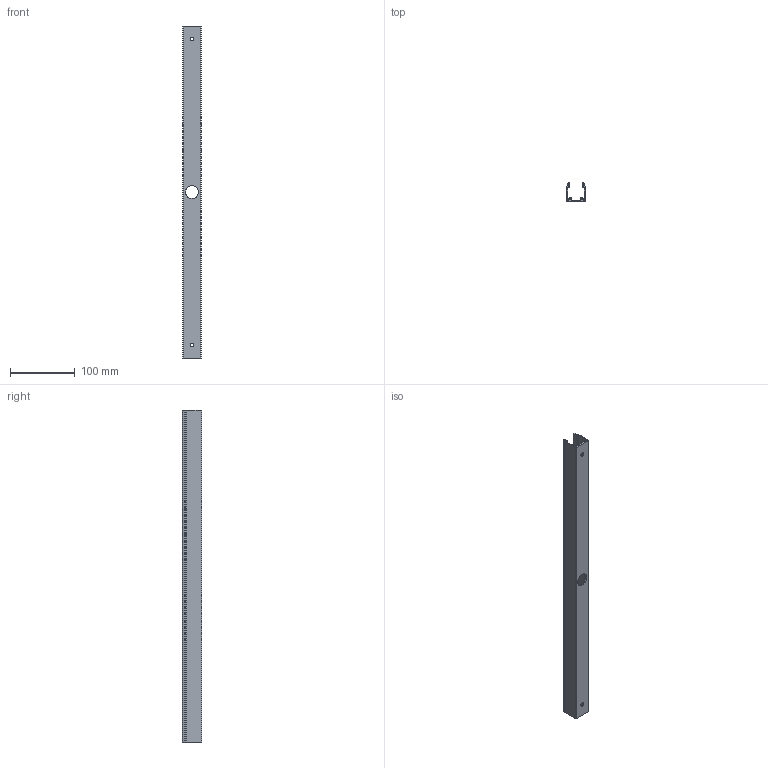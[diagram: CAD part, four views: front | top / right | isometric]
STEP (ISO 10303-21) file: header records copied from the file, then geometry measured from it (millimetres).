
FILE_DESCRIPTION(/* description */ ('Unknown'),/* implementation_level */ '2;1');
FILE_NAME(/* name */ '98471',/* time_stamp */ '2023-02-07T04:32:09-05:00',/* author */ ('Unknown'),/* organization */ ('Unknown'),/* preprocessor_version */ 'ST-DEVELOPER v18.1',/* originating_system */ 'Solid Edge',/* authorisation */ 'Unknown');
FILE_SCHEMA (('AUTOMOTIVE_DESIGN {1 0 10303 214 3 1 1}'));
Length unit declared in the file: millimetre
Products named in the file (1): L-PR0045
Bounding box: 28 x 29.79 x 513 mm (x, y, z)
Volume: 78883.2 mm3; surface area: 102886.8 mm2
Topology: 1 solids, 1 shells, 103 faces, 312 edges, 208 vertices
Faces by surface type: cylinder 60, plane 43
Full cylindrical faces by diameter (mm): 6 x2, 20 x1
Entity records: 3584 total; most frequent: CARTESIAN_POINT 767, ORIENTED_EDGE 606, DIRECTION 578, EDGE_CURVE 303, AXIS2_PLACEMENT_3D 208, VERTEX_POINT 203, LINE 162, VECTOR 162
